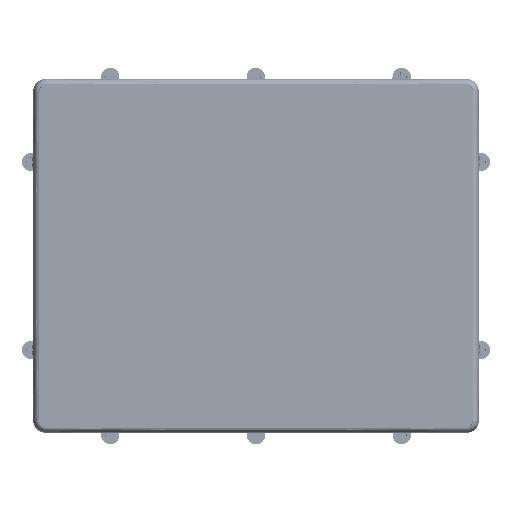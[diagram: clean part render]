
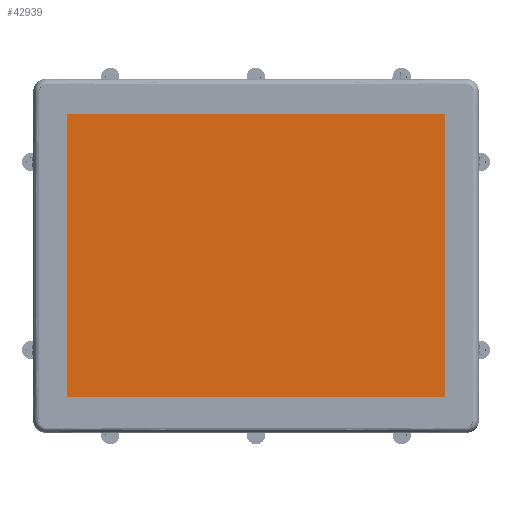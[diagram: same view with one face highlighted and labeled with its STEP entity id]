
A CAD part, top view. The second image highlights one B-rep face of the part: STEP entity #42939.
In plain terms, the highlighted planar face has unit normal (0, 0, 1).
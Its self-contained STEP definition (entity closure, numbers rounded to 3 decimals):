
#14076=DIRECTION('',(0.,-1.,0.));
#14077=VECTOR('',#14076,228.9);
#14078=CARTESIAN_POINT('',(-152.5,114.45,5.92));
#14079=LINE('',#14078,#14077);
#14092=DIRECTION('',(1.,0.,0.));
#14093=VECTOR('',#14092,305.);
#14094=CARTESIAN_POINT('',(-152.5,-114.45,5.92));
#14095=LINE('',#14094,#14093);
#14104=DIRECTION('',(0.,1.,0.));
#14105=VECTOR('',#14104,228.9);
#14106=CARTESIAN_POINT('',(152.5,-114.45,5.92));
#14107=LINE('',#14106,#14105);
#14116=DIRECTION('',(-1.,0.,0.));
#14117=VECTOR('',#14116,305.);
#14118=CARTESIAN_POINT('',(152.5,114.45,5.92));
#14119=LINE('',#14118,#14117);
#24688=CARTESIAN_POINT('',(152.5,114.45,5.92));
#24689=CARTESIAN_POINT('',(-152.5,114.45,5.92));
#24690=VERTEX_POINT('',#24688);
#24691=VERTEX_POINT('',#24689);
#24692=CARTESIAN_POINT('',(152.5,-114.45,5.92));
#24693=VERTEX_POINT('',#24692);
#24694=CARTESIAN_POINT('',(-152.5,-114.45,5.92));
#24695=VERTEX_POINT('',#24694);
#42928=CARTESIAN_POINT('',(0.,0.,5.92));
#42929=DIRECTION('',(0.,0.,1.));
#42930=DIRECTION('',(1.,0.,0.));
#42931=AXIS2_PLACEMENT_3D('',#42928,#42929,#42930);
#42932=PLANE('',#42931);
#42933=ORIENTED_EDGE('',*,*,#42916,.F.);
#42934=ORIENTED_EDGE('',*,*,#42896,.F.);
#42935=ORIENTED_EDGE('',*,*,#42875,.F.);
#42936=ORIENTED_EDGE('',*,*,#42854,.F.);
#42937=EDGE_LOOP('',(#42933,#42934,#42935,#42936));
#42938=FACE_OUTER_BOUND('',#42937,.F.);
#42939=ADVANCED_FACE('',(#42938),#42932,.T.);
#42854=EDGE_CURVE('',#24691,#24695,#14079,.T.);
#42875=EDGE_CURVE('',#24695,#24693,#14095,.T.);
#42896=EDGE_CURVE('',#24693,#24690,#14107,.T.);
#42916=EDGE_CURVE('',#24690,#24691,#14119,.T.);
